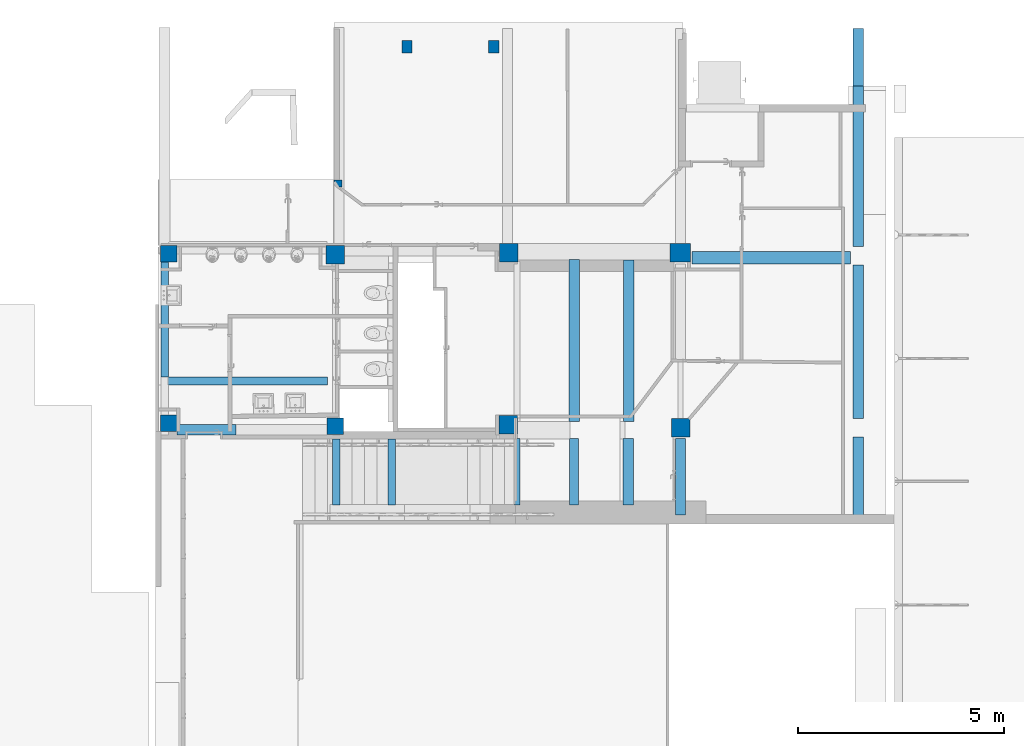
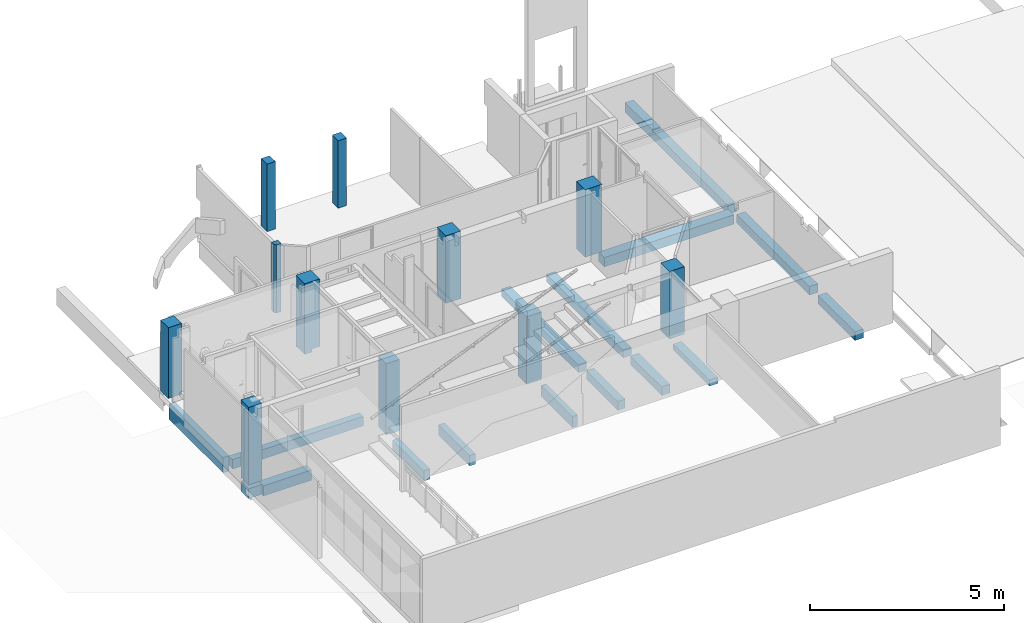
# One storey, part 1 of 32: 13 beams, 11 columns.
"""IFC4 building model written with IfcOpenShell, lengths in metres."""

from ifc_helpers import new_model, entity, si_unit, converted_unit, derived_unit, direction, frame, origin, place, context, subcontext, project, spatial, indexed_curve, outline, extrude, polygons, source, transform, mapped, material, material_list, type_object, type_shapes, element, save


model = new_model("IFC4")

# Units and contexts
model_context = context("Model", 3, precision=1e-05, world=origin(), true_north=direction((6.12303176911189e-17, 1.0)))
body_context = subcontext(model_context, "Body", "Model", "MODEL_VIEW")
ifc_project = project(units=[si_unit("LENGTHUNIT", "METRE"), si_unit("AREAUNIT", "SQUARE_METRE"), si_unit("VOLUMEUNIT", "CUBIC_METRE"), converted_unit("PLANEANGLEUNIT", "DEGREE", entity("IfcRatioMeasure", 0.0174532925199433), si_unit("PLANEANGLEUNIT", "RADIAN"), dimensions=[0, 0, 0, 0, 0, 0, 0]), si_unit("MASSUNIT", "GRAM", prefix="KILO"), derived_unit("MASSDENSITYUNIT", [(si_unit("MASSUNIT", "GRAM", prefix="KILO"), 1), (si_unit("LENGTHUNIT", "METRE"), -3)]), derived_unit("MOMENTOFINERTIAUNIT", [(si_unit("LENGTHUNIT", "METRE"), 4)]), si_unit("TIMEUNIT", "SECOND"), si_unit("FREQUENCYUNIT", "HERTZ"), si_unit("THERMODYNAMICTEMPERATUREUNIT", "DEGREE_CELSIUS"), derived_unit("THERMALTRANSMITTANCEUNIT", [(si_unit("MASSUNIT", "GRAM", prefix="KILO"), 1), (si_unit("THERMODYNAMICTEMPERATUREUNIT", "KELVIN"), -1), (si_unit("TIMEUNIT", "SECOND"), -3)]), derived_unit("VOLUMETRICFLOWRATEUNIT", [(si_unit("LENGTHUNIT", "METRE"), 3), (si_unit("TIMEUNIT", "SECOND"), -1)]), si_unit("ELECTRICCURRENTUNIT", "AMPERE"), si_unit("ELECTRICVOLTAGEUNIT", "VOLT"), si_unit("POWERUNIT", "WATT"), si_unit("FORCEUNIT", "NEWTON", prefix="KILO"), si_unit("ILLUMINANCEUNIT", "LUX"), si_unit("LUMINOUSFLUXUNIT", "LUMEN"), si_unit("LUMINOUSINTENSITYUNIT", "CANDELA"), derived_unit("USERDEFINED", [(si_unit("MASSUNIT", "GRAM", prefix="KILO"), -1), (si_unit("LENGTHUNIT", "METRE"), -2), (si_unit("TIMEUNIT", "SECOND"), 3), (si_unit("LUMINOUSFLUXUNIT", "LUMEN"), 1)]), derived_unit("LINEARVELOCITYUNIT", [(si_unit("LENGTHUNIT", "METRE"), 1), (si_unit("TIMEUNIT", "SECOND"), -1)]), si_unit("PRESSUREUNIT", "PASCAL"), derived_unit("USERDEFINED", [(si_unit("LENGTHUNIT", "METRE"), -2), (si_unit("MASSUNIT", "GRAM", prefix="KILO"), 1), (si_unit("TIMEUNIT", "SECOND"), -2)]), derived_unit("LINEARFORCEUNIT", [(si_unit("MASSUNIT", "GRAM", prefix="KILO"), 1), (si_unit("LENGTHUNIT", "METRE"), 1), (si_unit("TIMEUNIT", "SECOND"), -2), (si_unit("LENGTHUNIT", "METRE"), -1)]), derived_unit("PLANARFORCEUNIT", [(si_unit("MASSUNIT", "GRAM", prefix="KILO"), 1), (si_unit("LENGTHUNIT", "METRE"), 1), (si_unit("TIMEUNIT", "SECOND"), -2), (si_unit("LENGTHUNIT", "METRE"), -2)])], contexts=[model_context])

# Site, building, storey
site_placement = place(None, origin())
site = spatial("IfcSite", under=ifc_project, at=site_placement, Name="Default", CompositionType="ELEMENT")
building_placement = place(site_placement, origin())
building = spatial("IfcBuilding", under=site, at=building_placement, Name="HOTEL CONSULAIRE BOULOGNE SUR MER", CompositionType="ELEMENT")
storey_placement = place(building_placement, frame((0.0, 0.0, -2.70343668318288)))
storey = spatial("IfcBuildingStorey", under=building, at=storey_placement, Name="SS1", CompositionType="ELEMENT", Elevation=-2.70343668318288)

# Columns
ifc_material_1 = material(Name="Maçonnerie - Béton coulé sur place", Category="Béton")
column_type_1 = type_object("IfcColumnType", Name="Poteau béton - Rectangulaire:400x400", PredefinedType="COLUMN", material=ifc_material_1)
shared_shape_1 = source(origin(), body_context, "Body", "SweptSolid", [
    extrude(outline(indexed_curve([(-0.199999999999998, -0.2), (0.200000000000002, -0.2), (0.199999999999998, 0.2), (-0.200000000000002, 0.2), (-0.199999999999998, -0.2)], self_intersect=False)), frame((-5.27550814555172, -19.7222313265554, -3.13343668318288), z_axis=(0.0, 0.0, 1.0), x_axis=(0.0, -1.0, 0.0)), (0.0, 0.0, 1.0), 0.31),
    extrude(outline(indexed_curve([(-0.199999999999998, -0.2), (0.200000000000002, -0.2), (0.199999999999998, 0.2), (-0.200000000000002, 0.2), (-0.199999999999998, -0.2)], self_intersect=False)), frame((-5.27550814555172, -19.7222313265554, -2.70343668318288), z_axis=(0.0, 0.0, 1.0), x_axis=(0.0, -1.0, 0.0)), (0.0, 0.0, 1.0), 2.43343668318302),
])
type_shapes(column_type_1, [shared_shape_1])
column_1_placement = place(storey_placement, frame((0.0, 0.0, 2.70343668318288)))
element("IfcColumn", 1, at=column_1_placement, inside=storey, type_object=column_type_1, material=ifc_material_1, Name="Poteau béton - Rectangulaire:400x400", ObjectType="Poteau béton - Rectangulaire:400x400", PredefinedType="COLUMN", context=body_context, shape_type="MappedRepresentation", body=[
    mapped(shared_shape_1, transform((0.0, 0.0, 0.0), scale=1.0)),
])
column_type_2 = type_object("IfcColumnType", Name="Poteau béton - Rectangulaire:400x400", PredefinedType="COLUMN", material=ifc_material_1)
shared_shape_2 = source(origin(), body_context, "Body", "Tessellation", [
    polygons([(0.4, 0.399999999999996, 0.0), (0.4, -4.33146851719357e-15, 0.0), (0.0, -4.33146851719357e-15, 0.0), (0.0, 0.0779954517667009, 0.0), (0.280000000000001, 0.0779954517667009, 0.0), (0.280000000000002, 0.399999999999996, 0.0), (0.4, 0.399999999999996, 2.23843668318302), (0.4, 0.0779954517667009, 2.23843668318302), (0.4, -4.33146851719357e-15, 2.23843668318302), (0.276478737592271, -4.33146851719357e-15, 2.23843668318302), (0.0, -4.33146851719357e-15, 2.23843668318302), (0.0, 0.0779954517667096, 2.23843668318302), (0.0, 0.399999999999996, 2.23843668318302), (0.0, 0.399999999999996, 0.0199999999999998), (0.0, 0.0779954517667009, 0.0199999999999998), (0.280000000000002, 0.399999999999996, 0.0199999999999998), (0.280000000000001, 0.0779954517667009, 0.0199999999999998)], [[[3, 4, 5, 6, 1, 2]], [[15, 14, 16, 17]], [[8, 9, 2, 1, 7]], [[10, 11, 3, 2, 9]], [[12, 13, 14, 15, 4, 3, 11]], [[16, 6, 5, 17]], [[13, 7, 1, 6, 16, 14]], [[15, 17, 5, 4]], [[8, 7, 13, 12, 11, 10, 9]]], closed=True),
])
type_shapes(column_type_2, [shared_shape_2])
column_2_placement = place(storey_placement, frame((-1.42882322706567, -19.992909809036, 0.195)))
element("IfcColumn", 2, at=column_2_placement, inside=storey, type_object=column_type_2, material=ifc_material_1, Name="Poteau béton - Rectangulaire:400x400", ObjectType="Poteau béton - Rectangulaire:400x400", PredefinedType="COLUMN", context=body_context, shape_type="MappedRepresentation", body=[
    mapped(shared_shape_2, transform((0.0, 0.0, 0.0), scale=1.0)),
])
column_type_3 = type_object("IfcColumnType", Name="Poteau béton - Rectangulaire:450X450", PredefinedType="COLUMN", material=ifc_material_1)
shared_shape_3 = source(origin(), body_context, "Body", "Tessellation", [
    polygons([(0.0, 0.410286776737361, 0.0), (0.0, 0.450000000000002, 0.0), (0.182000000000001, 0.450000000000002, 0.0), (0.194399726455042, 0.450000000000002, 0.0), (0.194399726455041, 0.410286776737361, 0.0), (0.45, 0.45, 2.23843668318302), (0.45, 0.415215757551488, 2.23843668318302), (0.45, 0.0, 2.23843668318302), (0.45, 0.0, 0.118990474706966), (0.45, 0.45, 0.118990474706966), (0.305000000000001, 0.0, 2.23843668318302), (0.225000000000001, 0.0, 2.23843668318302), (0.0, 0.0, 2.23843668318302), (0.0, 0.0, 0.0199999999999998), (0.225000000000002, 0.0, 0.0199999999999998), (0.225000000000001, 0.0, 0.118990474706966), (0.305000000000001, 0.0, 0.118990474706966), (0.0, 0.415215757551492, 2.23843668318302), (0.0, 0.450000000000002, 2.23843668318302), (0.0, 0.450000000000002, 0.0989904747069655), (0.0, 0.410286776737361, 0.0199999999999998), (0.278247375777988, 0.450000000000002, 2.23843668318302), (0.428247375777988, 0.450000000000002, 2.23843668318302), (0.194399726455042, 0.450000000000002, 0.118990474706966), (0.194399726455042, 0.450000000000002, 0.0249999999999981), (0.194399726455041, 0.410286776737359, 0.0199999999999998), (0.225000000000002, 0.410286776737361, 0.0199999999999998), (0.225000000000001, 0.410286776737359, 0.118990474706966), (0.194399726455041, 0.410286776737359, 0.118990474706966)], [[[1, 2, 3, 4, 5]], [[15, 14, 21, 26, 27]], [[10, 9, 17, 16, 28, 29, 24]], [[7, 8, 9, 10, 6]], [[28, 16, 15, 27]], [[26, 5, 4, 25, 24, 29]], [[12, 13, 14, 15, 16, 17, 9, 8, 11]], [[21, 1, 5, 26]], [[19, 20, 2, 1, 21, 14, 13, 18]], [[10, 24, 25, 4, 3, 2, 20, 19, 22, 23, 6]], [[29, 28, 27, 26]], [[6, 23, 22, 19, 18, 13, 12, 11, 8, 7]]], closed=True),
])
type_shapes(column_type_3, [shared_shape_3])
column_3_placement = place(storey_placement, frame((-1.45382322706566, -15.840909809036, 0.195)))
element("IfcColumn", 3, at=column_3_placement, inside=storey, type_object=column_type_3, material=ifc_material_1, Name="Poteau béton - Rectangulaire:450X450", ObjectType="Poteau béton - Rectangulaire:450X450", PredefinedType="COLUMN", context=body_context, shape_type="MappedRepresentation", body=[
    mapped(shared_shape_3, transform((0.0, 0.0, 0.0), scale=1.0)),
])
column_type_4 = type_object("IfcColumnType", Name="Poteau béton - Rectangulaire:400x400", PredefinedType="COLUMN", material=ifc_material_1)
shared_shape_4 = source(origin(), body_context, "Body", "Tessellation", [
    polygons([(0.0, 0.4, 0.0), (0.4, 0.4, 0.0), (0.4, 0.364643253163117, 0.0), (0.0, 0.364643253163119, 0.0), (0.4, 0.4, 2.23843668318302), (0.4, 0.369572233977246, 2.23843668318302), (0.4, 0.0, 2.23843668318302), (0.4, 0.0, 2.01843668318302), (0.4, 0.0, 0.0199999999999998), (0.4, 0.364643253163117, 0.0199999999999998), (0.4, 0.4, 0.0989904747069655), (0.387715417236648, 0.0, 2.23843668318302), (0.0, 0.0, 2.23843668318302), (0.0, 0.0, 2.01843668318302), (0.0, 0.0, 0.0199999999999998), (0.0135195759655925, 0.0, 0.0199999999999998), (0.0, 0.387616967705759, 2.23843668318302), (0.0, 0.4, 2.23843668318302), (0.0, 0.4, 1.83843668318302), (0.0, 0.4, 0.0249999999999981), (0.0, 0.364643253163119, 0.0199999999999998), (0.0, 0.237820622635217, 0.0199999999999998), (0.235170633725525, 0.4, 2.23843668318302)], [[[4, 1, 2, 3]], [[22, 21, 10, 9, 16, 15]], [[7, 8, 9, 10, 3, 2, 11, 5, 6]], [[8, 7, 12, 13, 14, 15, 16, 9]], [[21, 4, 3, 10]], [[18, 19, 20, 1, 4, 21, 22, 15, 14, 13, 17]], [[23, 5, 11, 2, 1, 20, 19, 18]], [[12, 7, 6, 5, 23, 18, 17, 13]]], closed=True),
])
type_shapes(column_type_4, [shared_shape_4])
column_4_placement = place(storey_placement, frame((-5.47550814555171, -15.7952662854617, 0.195)))
element("IfcColumn", 4, at=column_4_placement, inside=storey, type_object=column_type_4, material=ifc_material_1, Name="Poteau béton - Rectangulaire:400x400", ObjectType="Poteau béton - Rectangulaire:400x400", PredefinedType="COLUMN", context=body_context, shape_type="MappedRepresentation", body=[
    mapped(shared_shape_4, transform((0.0, 0.0, 0.0), scale=1.0)),
])
column_type_5 = type_object("IfcColumnType", Name="Poteau béton - Rectangulaire:450X450", PredefinedType="COLUMN", material=ifc_material_1)
shared_shape_5 = source(origin(), body_context, "Body", "SweptSolid", [
    extrude(outline(indexed_curve([(-0.225000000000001, -0.225), (0.225000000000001, -0.225), (0.225000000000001, 0.225), (-0.225000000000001, 0.225), (-0.225000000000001, -0.225)], self_intersect=False)), frame((2.97117677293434, -19.75452166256, -2.38944620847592), z_axis=(0.0, 0.0, 1.0), x_axis=(0.0, -1.0, 0.0)), (0.0, 0.0, 1.0), 2.11944620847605),
])
type_shapes(column_type_5, [shared_shape_5])
column_5_placement = place(storey_placement, frame((0.0, 0.0, 2.70343668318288)))
element("IfcColumn", 5, at=column_5_placement, inside=storey, type_object=column_type_5, material=ifc_material_1, Name="Poteau béton - Rectangulaire:450X450", ObjectType="Poteau béton - Rectangulaire:450X450", PredefinedType="COLUMN", context=body_context, shape_type="MappedRepresentation", body=[
    mapped(shared_shape_5, transform((0.0, 0.0, 0.0), scale=1.0)),
])
column_type_6 = type_object("IfcColumnType", Name="Poteau béton - Rectangulaire:450X450", PredefinedType="COLUMN", material=ifc_material_1)
shared_shape_6 = source(origin(), body_context, "Body", "SweptSolid", [
    extrude(outline(indexed_curve([(-0.225000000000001, -0.225), (0.225000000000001, -0.225), (0.225000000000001, 0.225), (-0.225000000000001, 0.225), (-0.225000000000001, -0.225)], self_intersect=False)), frame((7.16638318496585, -19.8292000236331, -2.38944620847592), z_axis=(0.0, 0.0, 1.0), x_axis=(0.0, -1.0, 0.0)), (0.0, 0.0, 1.0), 2.11944620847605),
])
type_shapes(column_type_6, [shared_shape_6])
column_6_placement = place(storey_placement, frame((0.0, 0.0, 2.70343668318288)))
element("IfcColumn", 6, at=column_6_placement, inside=storey, type_object=column_type_6, material=ifc_material_1, Name="Poteau béton - Rectangulaire:450X450", ObjectType="Poteau béton - Rectangulaire:450X450", PredefinedType="COLUMN", context=body_context, shape_type="MappedRepresentation", body=[
    mapped(shared_shape_6, transform((0.0, 0.0, 0.0), scale=1.0)),
])
column_type_7 = type_object("IfcColumnType", Name="Poteau béton - Rectangulaire:450X450", PredefinedType="COLUMN", material=ifc_material_1)
shared_shape_7 = source(origin(), body_context, "Body", "SweptSolid", [
    extrude(outline(indexed_curve([(-0.225000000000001, -0.225), (0.224999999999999, -0.225), (0.225000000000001, 0.225), (-0.224999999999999, 0.225), (-0.225000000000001, -0.225)], self_intersect=False)), frame((2.98632268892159, -15.5706940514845, -2.38944620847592), z_axis=(0.0, 0.0, 1.0), x_axis=(0.0, -1.0, 0.0)), (0.0, 0.0, 1.0), 2.11944620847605),
])
type_shapes(column_type_7, [shared_shape_7])
column_7_placement = place(storey_placement, frame((0.0, 0.0, 2.70343668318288)))
element("IfcColumn", 7, at=column_7_placement, inside=storey, type_object=column_type_7, material=ifc_material_1, Name="Poteau béton - Rectangulaire:450X450", ObjectType="Poteau béton - Rectangulaire:450X450", PredefinedType="COLUMN", context=body_context, shape_type="MappedRepresentation", body=[
    mapped(shared_shape_7, transform((0.0, 0.0, 0.0), scale=1.0)),
])
column_type_8 = type_object("IfcColumnType", Name="Poteau béton - Rectangulaire:250x300", PredefinedType="COLUMN", material=ifc_material_1)
shared_shape_8 = source(origin(), body_context, "Body", "SweptSolid", [
    extrude(outline(indexed_curve([(-0.150000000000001, -0.125), (0.149999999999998, -0.125), (0.150000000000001, 0.125), (-0.149999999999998, 0.125), (-0.150000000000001, -0.125)], self_intersect=False)), frame((0.514500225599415, -10.5622656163, -2.38944620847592), z_axis=(0.0, 0.0, 1.0), x_axis=(0.0, -1.0, 0.0)), (0.0, 0.0, 1.0), 2.11944620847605),
])
type_shapes(column_type_8, [shared_shape_8])
column_8_placement = place(storey_placement, frame((0.0, 0.0, 2.70343668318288)))
element("IfcColumn", 8, at=column_8_placement, inside=storey, type_object=column_type_8, material=ifc_material_1, Name="Poteau béton - Rectangulaire:250x300", ObjectType="Poteau béton - Rectangulaire:250x300", PredefinedType="COLUMN", context=body_context, shape_type="MappedRepresentation", body=[
    mapped(shared_shape_8, transform((0.0, 0.0, 0.0), scale=1.0)),
])
column_type_9 = type_object("IfcColumnType", Name="Poteau béton - Rectangulaire:250x300", PredefinedType="COLUMN", material=ifc_material_1)
shared_shape_9 = source(origin(), body_context, "Body", "SweptSolid", [
    extrude(outline(indexed_curve([(-0.150000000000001, -0.125), (0.149999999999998, -0.125), (0.150000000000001, 0.125), (-0.149999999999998, 0.125), (-0.150000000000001, -0.125)], self_intersect=False)), frame((2.62359456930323, -10.5666991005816, -2.38944620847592), z_axis=(0.0, 0.0, 1.0), x_axis=(0.0, -1.0, 0.0)), (0.0, 0.0, 1.0), 2.11944620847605),
])
type_shapes(column_type_9, [shared_shape_9])
column_9_placement = place(storey_placement, frame((0.0, 0.0, 2.70343668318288)))
element("IfcColumn", 9, at=column_9_placement, inside=storey, type_object=column_type_9, material=ifc_material_1, Name="Poteau béton - Rectangulaire:250x300", ObjectType="Poteau béton - Rectangulaire:250x300", PredefinedType="COLUMN", context=body_context, shape_type="MappedRepresentation", body=[
    mapped(shared_shape_9, transform((0.0, 0.0, 0.0), scale=1.0)),
])
ifc_material_2 = material(Name="Béton - Béton coulé sur place", Category="Béton")
ifc_material_3 = material(Name="<Unnamed>")
ifc_material_list = material_list([ifc_material_3, ifc_material_2])
column_type_10 = type_object("IfcColumnType", Name="Poteaux porteurs 22:Poteaux porteurs 22", PredefinedType="COLUMN", material=ifc_material_list)
shared_shape_10 = source(origin(), body_context, "Body", "SweptSolid", [
    extrude(outline(indexed_curve([(-0.0883394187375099, -0.0848689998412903), (0.00944794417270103, -0.0848689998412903), (0.0836154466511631, -0.0385240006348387), (0.0836154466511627, 0.104131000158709), (-0.0883394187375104, 0.104131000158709), (-0.0883394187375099, -0.0848689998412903)], self_intersect=False)), frame((-1.17455450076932, -13.8866725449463, -2.40944620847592), z_axis=(0.0, 0.0, 1.0), x_axis=(0.0, -1.0, 0.0)), (0.0, 0.0, 1.0), 2.13944620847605),
])
type_shapes(column_type_10, [shared_shape_10])
column_10_placement = place(storey_placement, frame((0.0, 0.0, 2.70343668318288)))
element("IfcColumn", 10, at=column_10_placement, inside=storey, type_object=column_type_10, material=ifc_material_2, Name="Poteaux porteurs 22:Poteaux porteurs 22", ObjectType="Poteaux porteurs 22:Poteaux porteurs 22", PredefinedType="COLUMN", context=body_context, shape_type="MappedRepresentation", body=[
    mapped(shared_shape_10, transform((0.0, 0.0, 0.0), scale=1.0)),
])
column_type_11 = type_object("IfcColumnType", Name="Poteau béton - Rectangulaire:500X450", PredefinedType="COLUMN", material=ifc_material_1)
shared_shape_11 = source(origin(), body_context, "Body", "SweptSolid", [
    extrude(outline(indexed_curve([(-0.225000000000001, -0.250000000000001), (0.224999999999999, -0.250000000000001), (0.225000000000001, 0.249999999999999), (-0.224999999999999, 0.249999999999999), (-0.225000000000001, -0.250000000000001)], self_intersect=False)), frame((7.15357495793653, -15.5740975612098, -2.38944620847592), z_axis=(0.0, 0.0, 1.0), x_axis=(0.0, -1.0, 0.0)), (0.0, 0.0, 1.0), 2.11944620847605),
])
type_shapes(column_type_11, [shared_shape_11])
column_11_placement = place(storey_placement, frame((0.0, 0.0, 2.70343668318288)))
element("IfcColumn", 11, at=column_11_placement, inside=storey, type_object=column_type_11, material=ifc_material_1, Name="Poteau béton - Rectangulaire:500X450", ObjectType="Poteau béton - Rectangulaire:500X450", PredefinedType="COLUMN", context=body_context, shape_type="MappedRepresentation", body=[
    mapped(shared_shape_11, transform((0.0, 0.0, 0.0), scale=1.0)),
])

# Beams
beam_type_1 = type_object("IfcBeamType", Name="Poutre rectangulaire - Béton:250x320", PredefinedType="BEAM", material=ifc_material_2)
shared_shape_12 = source(origin(), body_context, "Body", "SweptSolid", [
    extrude(outline(indexed_curve([(-0.160000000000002, -0.125), (0.159999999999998, -0.125), (0.160000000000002, 0.125), (-0.159999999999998, 0.125000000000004), (-0.160000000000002, -0.125)], self_intersect=False)), frame((-5.07530402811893, -19.8732313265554, -2.98343668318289), z_axis=(1.0, 0.0, 0.0), x_axis=(0.0, 0.0, -1.0)), (0.0, 0.0, 1.0), 1.4307),
])
type_shapes(beam_type_1, [shared_shape_12])
beam_1_placement = place(storey_placement, frame((0.0, 0.0, 2.70343668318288)))
element("IfcBeam", 12, at=beam_1_placement, inside=storey, type_object=beam_type_1, material=ifc_material_2, Name="Poutre rectangulaire - Béton:250x320", ObjectType="Poutre rectangulaire - Béton:250x320", PredefinedType="BEAM", context=body_context, shape_type="MappedRepresentation", body=[
    mapped(shared_shape_12, transform((0.0, 0.0, 0.0), scale=1.0)),
])
beam_type_2 = type_object("IfcBeamType", Name="Poutre rectangulaire - Béton:200x300", PredefinedType="BEAM", material=ifc_material_2)
shared_shape_13 = source(origin(), body_context, "Body", "SweptSolid", [
    extrude(outline(indexed_curve([(-0.147500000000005, -0.0999999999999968), (0.147499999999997, -0.0999999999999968), (0.147500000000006, 0.100000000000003), (-0.147499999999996, 0.100000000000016), (-0.147500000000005, -0.0999999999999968)], self_intersect=False)), frame((-5.29460589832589, -18.6905384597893, -2.80593668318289), z_axis=(1.0, 0.0, 0.0), x_axis=(0.0, 0.0, -1.0)), (0.0, 0.0, 1.0), 3.8784),
])
type_shapes(beam_type_2, [shared_shape_13])
beam_2_placement = place(storey_placement, frame((0.0, 0.0, 2.70343668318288)))
element("IfcBeam", 13, at=beam_2_placement, inside=storey, type_object=beam_type_2, material=ifc_material_2, Name="Poutre rectangulaire - Béton:200x300", ObjectType="Poutre rectangulaire - Béton:200x300", PredefinedType="BEAM", context=body_context, shape_type="MappedRepresentation", body=[
    mapped(shared_shape_13, transform((0.0, 0.0, 0.0), scale=1.0)),
])
beam_type_3 = type_object("IfcBeamType", Name="Poutre rectangulaire - Béton:180X320", PredefinedType="BEAM", material=ifc_material_2)
shared_shape_14 = source(origin(), body_context, "Body", "SweptSolid", [
    extrude(outline(indexed_curve([(-0.09, -0.16), (0.0900000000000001, -0.16), (0.0900000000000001, 0.16), (-0.09, 0.16), (-0.09, -0.16)], self_intersect=False)), frame((-1.20715893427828, -21.7017644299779, -2.80343668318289), z_axis=(0.0, 1.0, 0.0), x_axis=(-1.0, 0.0, 0.0)), (0.0, 0.0, 1.0), 1.6037),
])
type_shapes(beam_type_3, [shared_shape_14])
beam_3_placement = place(storey_placement, frame((0.0, 0.0, 2.70343668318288)))
element("IfcBeam", 14, at=beam_3_placement, inside=storey, type_object=beam_type_3, material=ifc_material_2, Name="Poutre rectangulaire - Béton:180X320", ObjectType="Poutre rectangulaire - Béton:180X320", PredefinedType="BEAM", context=body_context, shape_type="MappedRepresentation", body=[
    mapped(shared_shape_14, transform((0.0, 0.0, 0.0), scale=1.0)),
])
beam_type_4 = type_object("IfcBeamType", Name="Poutre rectangulaire - Béton:150X350", PredefinedType="BEAM", material=ifc_material_2)
shared_shape_15 = source(origin(), body_context, "Body", "SweptSolid", [
    extrude(outline(indexed_curve([(-0.787740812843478, -0.0890023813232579), (-0.778190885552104, -0.0890023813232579), (-0.778190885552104, -0.0829928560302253), (0.737272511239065, -0.0829928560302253), (0.737272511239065, -0.0890023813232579), (0.828659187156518, -0.0890023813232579), (0.828659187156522, 0.260997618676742), (-0.787740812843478, 0.260997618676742), (-0.787740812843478, -0.0890023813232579)], self_intersect=False)), frame((0.0, 0.828659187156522, 0.260997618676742), z_axis=(1.0, 0.0, 0.0), x_axis=(0.0, -1.0, 0.0)), (0.0, 0.0, 1.0), 0.15),
])
type_shapes(beam_type_4, [shared_shape_15])
beam_4_placement = place(storey_placement, frame((3.11784106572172, -21.7017644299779, -0.130000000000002)))
element("IfcBeam", 15, at=beam_4_placement, inside=storey, type_object=beam_type_4, material=ifc_material_2, Name="Poutre rectangulaire - Béton:150X350", ObjectType="Poutre rectangulaire - Béton:150X350", PredefinedType="BEAM", context=body_context, shape_type="MappedRepresentation", body=[
    mapped(shared_shape_15, transform((0.0, 0.0, 0.0), scale=1.0)),
])
beam_type_5 = type_object("IfcBeamType", Name="Poutre rectangulaire - Béton:180X320", PredefinedType="BEAM", material=ifc_material_2)
shared_shape_16 = source(origin(), body_context, "Body", "SweptSolid", [
    extrude(outline(indexed_curve([(-0.09, -0.16), (0.09, -0.16), (0.09, 0.16), (-0.09, 0.16), (-0.09, -0.16)], self_intersect=False)), frame((0.147841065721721, -21.7017644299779, -2.80343668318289), z_axis=(0.0, 1.0, 0.0), x_axis=(-1.0, 0.0, 0.0)), (0.0, 0.0, 1.0), 1.6037),
])
type_shapes(beam_type_5, [shared_shape_16])
beam_5_placement = place(storey_placement, frame((0.0, 0.0, 2.70343668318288)))
element("IfcBeam", 16, at=beam_5_placement, inside=storey, type_object=beam_type_5, material=ifc_material_2, Name="Poutre rectangulaire - Béton:180X320", ObjectType="Poutre rectangulaire - Béton:180X320", PredefinedType="BEAM", context=body_context, shape_type="MappedRepresentation", body=[
    mapped(shared_shape_16, transform((0.0, 0.0, 0.0), scale=1.0)),
])
beam_type_6 = type_object("IfcBeamType", Name="Poutre rectangulaire - Béton:250x270", PredefinedType="BEAM", material=ifc_material_2)
shared_shape_17 = source(origin(), body_context, "Body", "SweptSolid", [
    extrude(outline(indexed_curve([(-0.125, -0.096995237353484), (0.125, -0.096995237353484), (0.125, 0.0969952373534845), (-0.125000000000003, 0.096995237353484), (-0.125, -0.096995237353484)], self_intersect=False)), frame((7.16543794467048, -21.9517644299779, -2.6564414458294), z_axis=(0.0, 1.0, 0.0), x_axis=(-1.0, 0.0, 0.0)), (0.0, 0.0, 1.0), 1.8664),
])
type_shapes(beam_type_6, [shared_shape_17])
beam_6_placement = place(storey_placement, frame((0.0, 0.0, 2.70343668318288)))
element("IfcBeam", 17, at=beam_6_placement, inside=storey, type_object=beam_type_6, material=ifc_material_2, Name="Poutre rectangulaire - Béton:250x270", ObjectType="Poutre rectangulaire - Béton:250x270", PredefinedType="BEAM", context=body_context, shape_type="MappedRepresentation", body=[
    mapped(shared_shape_17, transform((0.0, 0.0, 0.0), scale=1.0)),
])
beam_type_7 = type_object("IfcBeamType", Name="Poutre rectangulaire - Béton:250X300", PredefinedType="BEAM", material=ifc_material_2)
shared_shape_18 = source(origin(), body_context, "Body", "SweptSolid", [
    extrude(outline(indexed_curve([(-1.92382088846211, -0.154876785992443), (-1.39757930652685, -0.154876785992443), (-1.17757930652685, -0.154876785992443), (-0.623212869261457, -0.154876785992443), (-0.523212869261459, -0.154876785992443), (-0.523212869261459, -0.128867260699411), (-0.423212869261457, -0.128867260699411), (3.36945868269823, -0.128867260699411), (3.36945868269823, 0.145123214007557), (2.79915942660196, 0.145123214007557), (2.59915942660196, 0.145123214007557), (-0.423212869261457, 0.145123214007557), (-0.623212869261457, 0.145123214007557), (-1.17757930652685, 0.145123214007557), (-1.39757930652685, 0.145123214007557), (-1.92382088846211, 0.145123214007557), (-1.92382088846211, -0.154876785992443)], self_intersect=False)), frame((0.0, 9.90557911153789, 0.145123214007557), z_axis=(1.0, 0.0, 0.0), x_axis=(0.0, -1.0, 0.0)), (0.0, 0.0, 1.0), 0.249999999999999),
    extrude(outline(indexed_curve([(-0.948635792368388, -0.136995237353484), (0.948635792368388, -0.136995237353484), (0.948635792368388, 0.136995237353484), (-0.948635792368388, 0.136995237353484), (-0.948635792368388, -0.136995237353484)], self_intersect=False)), frame((0.0, 0.948635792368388, 0.136995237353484), z_axis=(1.0, 0.0, 0.0), x_axis=(0.0, 1.0, 0.0)), (0.0, 0.0, 1.0), 0.249999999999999),
    extrude(outline(indexed_curve([(-1.86942442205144, -0.136995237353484), (1.86942442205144, -0.136995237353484), (1.86942442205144, 0.136995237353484), (-1.86942442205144, 0.136995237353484), (-1.86942442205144, -0.136995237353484)], self_intersect=False)), frame((0.0, 4.21669600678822, 0.136995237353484), z_axis=(1.0, 0.0, 0.0), x_axis=(0.0, 1.0, 0.0)), (0.0, 0.0, 1.0), 0.249999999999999),
])
type_shapes(beam_type_7, [shared_shape_18])
beam_7_placement = place(storey_placement, frame((11.3604379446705, -21.9514716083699, -0.130000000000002)))
element("IfcBeam", 18, at=beam_7_placement, inside=storey, type_object=beam_type_7, material=ifc_material_2, Name="Poutre rectangulaire - Béton:250X300", ObjectType="Poutre rectangulaire - Béton:250X300", PredefinedType="BEAM", context=body_context, shape_type="MappedRepresentation", body=[
    mapped(shared_shape_18, transform((0.0, 0.0, 0.0), scale=1.0)),
])
beam_type_8 = type_object("IfcBeamType", Name="Poutre rectangulaire - Béton:300x300", PredefinedType="BEAM", material=ifc_material_2)
shared_shape_19 = source(origin(), body_context, "Body", "SweptSolid", [
    extrude(outline(indexed_curve([(-0.146995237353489, -0.149999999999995), (0.146995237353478, -0.149999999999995), (0.14699523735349, 0.150000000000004), (-0.146995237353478, 0.150000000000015), (-0.146995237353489, -0.149999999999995)], self_intersect=False)), frame((7.4437083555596, -15.695909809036, -2.7064414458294), z_axis=(1.0, 0.0, 0.0), x_axis=(0.0, 0.0, -1.0)), (0.0, 0.0, 1.0), 3.84949289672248),
])
type_shapes(beam_type_8, [shared_shape_19])
beam_8_placement = place(storey_placement, frame((0.0, 0.0, 2.70343668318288)))
element("IfcBeam", 19, at=beam_8_placement, inside=storey, type_object=beam_type_8, material=ifc_material_2, Name="Poutre rectangulaire - Béton:300x300", ObjectType="Poutre rectangulaire - Béton:300x300", PredefinedType="BEAM", context=body_context, shape_type="MappedRepresentation", body=[
    mapped(shared_shape_19, transform((0.0, 0.0, 0.0), scale=1.0)),
])
beam_type_9 = type_object("IfcBeamType", Name="Poutre rectangulaire - Béton:250X300", PredefinedType="BEAM", material=ifc_material_2)
shared_shape_20 = source(origin(), body_context, "Body", "SweptSolid", [
    extrude(outline(indexed_curve([(-0.125, -0.121995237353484), (0.125, -0.121995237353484), (0.125, 0.121995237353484), (-0.125, 0.121995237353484), (-0.125, -0.121995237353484)], self_intersect=False)), frame((5.90784106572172, -19.677909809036, -2.6814414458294), z_axis=(0.0, 1.0, 0.0), x_axis=(-1.0, 0.0, 0.0)), (0.0, 0.0, 1.0), 3.93000000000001),
])
type_shapes(beam_type_9, [shared_shape_20])
beam_9_placement = place(storey_placement, frame((0.0, 0.0, 2.70343668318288)))
element("IfcBeam", 20, at=beam_9_placement, inside=storey, type_object=beam_type_9, material=ifc_material_2, Name="Poutre rectangulaire - Béton:250X300", ObjectType="Poutre rectangulaire - Béton:250X300", PredefinedType="BEAM", context=body_context, shape_type="MappedRepresentation", body=[
    mapped(shared_shape_20, transform((0.0, 0.0, 0.0), scale=1.0)),
])
beam_type_10 = type_object("IfcBeamType", Name="Poutre rectangulaire - Béton:250X300", PredefinedType="BEAM", material=ifc_material_2)
shared_shape_21 = source(origin(), body_context, "Body", "SweptSolid", [
    extrude(outline(indexed_curve([(-0.125, -0.121995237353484), (0.125, -0.121995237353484), (0.125, 0.121995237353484), (-0.125, 0.121995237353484), (-0.125, -0.121995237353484)], self_intersect=False)), frame((4.58184106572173, -19.677909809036, -2.6814414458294), z_axis=(0.0, 1.0, 0.0), x_axis=(-1.0, 0.0, 0.0)), (0.0, 0.0, 1.0), 3.94270000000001),
])
type_shapes(beam_type_10, [shared_shape_21])
beam_10_placement = place(storey_placement, frame((0.0, 0.0, 2.70343668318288)))
element("IfcBeam", 21, at=beam_10_placement, inside=storey, type_object=beam_type_10, material=ifc_material_2, Name="Poutre rectangulaire - Béton:250X300", ObjectType="Poutre rectangulaire - Béton:250X300", PredefinedType="BEAM", context=body_context, shape_type="MappedRepresentation", body=[
    mapped(shared_shape_21, transform((0.0, 0.0, 0.0), scale=1.0)),
])
beam_type_11 = type_object("IfcBeamType", Name="Poutre rectangulaire - Béton:250x270", PredefinedType="BEAM", material=ifc_material_2)
shared_shape_22 = source(origin(), body_context, "Body", "SweptSolid", [
    extrude(outline(indexed_curve([(-0.00477496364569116, -0.00199999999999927), (0.00477496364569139, -0.00199999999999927), (0.00477496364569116, 0.00199999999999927), (-0.00477496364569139, 0.00199999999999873), (-0.00477496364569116, -0.00199999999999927)], self_intersect=False)), frame((0.0, 1.61162503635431, 0.268000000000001), z_axis=(1.0, 0.0, 0.0), x_axis=(0.0, -1.0, 0.0)), (0.0, 0.0, 1.0), 0.249999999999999),
    extrude(outline(indexed_curve([(-0.565080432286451, -0.177996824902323), (1.03877418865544, -0.177996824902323), (1.03877418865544, 0.0859936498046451), (-0.473693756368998, 0.0859936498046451), (-0.473693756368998, 0.0920031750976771), (-0.565080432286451, 0.0920031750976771), (-0.565080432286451, -0.177996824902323)], self_intersect=False)), frame((0.0, 0.565080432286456, 0.177996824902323), z_axis=(1.0, 0.0, 0.0), x_axis=(0.0, 1.0, 0.0)), (0.0, 0.0, 1.0), 0.249999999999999),
])
type_shapes(beam_type_11, [shared_shape_22])
beam_11_placement = place(storey_placement, frame((5.76684106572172, -21.7017644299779, -0.0500000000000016)))
element("IfcBeam", 22, at=beam_11_placement, inside=storey, type_object=beam_type_11, material=ifc_material_2, Name="Poutre rectangulaire - Béton:250x270", ObjectType="Poutre rectangulaire - Béton:250x270", PredefinedType="BEAM", context=body_context, shape_type="MappedRepresentation", body=[
    mapped(shared_shape_22, transform((0.0, 0.0, 0.0), scale=1.0)),
])
beam_type_12 = type_object("IfcBeamType", Name="Poutre rectangulaire - Béton:220x280", PredefinedType="BEAM", material=ifc_material_2)
shared_shape_23 = source(origin(), body_context, "Body", "SweptSolid", [
    extrude(outline(indexed_curve([(-0.00477496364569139, -0.00199999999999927), (0.00477496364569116, -0.00199999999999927), (0.00477496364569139, 0.00199999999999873), (-0.00477496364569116, 0.00199999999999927), (-0.00477496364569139, -0.00199999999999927)], self_intersect=False)), frame((0.0, 1.61162503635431, 0.278000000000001), z_axis=(1.0, 0.0, 0.0), x_axis=(0.0, -1.0, 0.0)), (0.0, 0.0, 1.0), 0.22),
    extrude(outline(indexed_curve([(-0.565080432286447, -0.184663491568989), (1.03877418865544, -0.184663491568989), (1.03877418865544, 0.0893269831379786), (-0.473693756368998, 0.0893269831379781), (-0.473693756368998, 0.0953365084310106), (-0.565080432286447, 0.0953365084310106), (-0.565080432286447, -0.184663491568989)], self_intersect=False)), frame((0.0, 0.565080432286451, 0.184663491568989), z_axis=(1.0, 0.0, 0.0), x_axis=(0.0, 1.0, 0.0)), (0.0, 0.0, 1.0), 0.22),
])
type_shapes(beam_type_12, [shared_shape_23])
beam_12_placement = place(storey_placement, frame((4.45984106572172, -21.7017644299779, -0.0600000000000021)))
element("IfcBeam", 23, at=beam_12_placement, inside=storey, type_object=beam_type_12, material=ifc_material_2, Name="Poutre rectangulaire - Béton:220x280", ObjectType="Poutre rectangulaire - Béton:220x280", PredefinedType="BEAM", context=body_context, shape_type="MappedRepresentation", body=[
    mapped(shared_shape_23, transform((0.0, 0.0, 0.0), scale=1.0)),
])
beam_type_13 = type_object("IfcBeamType", Name="Poutre rectangulaire - Béton:180X480", PredefinedType="BEAM", material=ifc_material_2)
shared_shape_24 = source(origin(), body_context, "Body", "SweptSolid", [
    extrude(outline(indexed_curve([(-0.0900000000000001, -0.24), (0.0900000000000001, -0.24), (0.0900000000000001, 0.24), (-0.0900000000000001, 0.24), (-0.0900000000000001, -0.24)], self_intersect=False)), frame((-5.37198856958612, -18.5904023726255, -2.89843668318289), z_axis=(0.0, 1.0, 0.0), x_axis=(-1.0, 0.0, 0.0)), (0.0, 0.0, 1.0), 2.79513608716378),
])
type_shapes(beam_type_13, [shared_shape_24])
beam_13_placement = place(storey_placement, frame((0.0, 0.0, 2.70343668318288)))
element("IfcBeam", 24, at=beam_13_placement, inside=storey, type_object=beam_type_13, material=ifc_material_2, Name="Poutre rectangulaire - Béton:180X480", ObjectType="Poutre rectangulaire - Béton:180X480", PredefinedType="BEAM", context=body_context, shape_type="MappedRepresentation", body=[
    mapped(shared_shape_24, transform((0.0, 0.0, 0.0), scale=1.0)),
])

save(model, "model.ifc")
